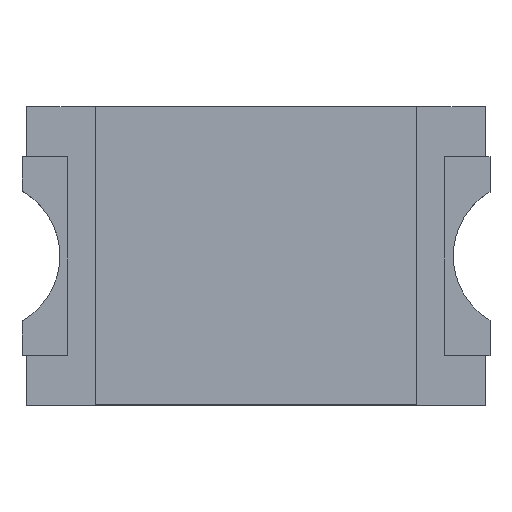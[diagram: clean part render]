
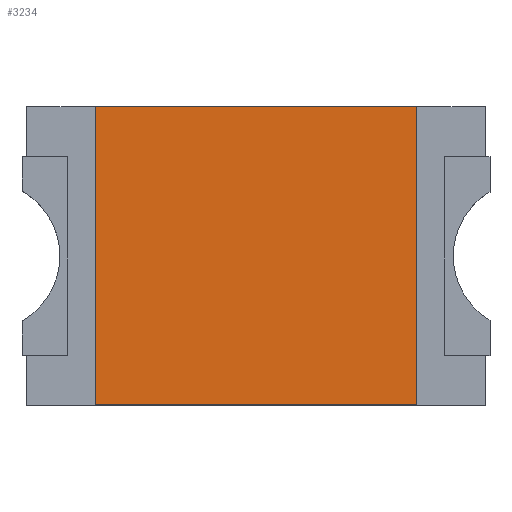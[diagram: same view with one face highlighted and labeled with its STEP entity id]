
A CAD part, top view. The second image highlights one B-rep face of the part: STEP entity #3234.
In plain terms, the highlighted planar face has unit normal (0, 0, 1).
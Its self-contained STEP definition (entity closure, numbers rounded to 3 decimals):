
#179 = PLANE('',#180);
#180 = AXIS2_PLACEMENT_3D('',#181,#182,#183);
#181 = CARTESIAN_POINT('',(-0.7,-0.65,0.4));
#182 = DIRECTION('',(1.,0.,0.));
#183 = DIRECTION('',(0.,0.,1.));
#725 = PLANE('',#726);
#726 = AXIS2_PLACEMENT_3D('',#727,#728,#729);
#727 = CARTESIAN_POINT('',(-0.7,-0.65,0.4));
#728 = DIRECTION('',(0.,1.,0.));
#729 = DIRECTION('',(0.,0.,1.));
#980 = PLANE('',#981);
#981 = AXIS2_PLACEMENT_3D('',#982,#983,#984);
#982 = CARTESIAN_POINT('',(-0.7,0.65,0.4));
#983 = DIRECTION('',(0.,1.,0.));
#984 = DIRECTION('',(0.,0.,1.));
#1040 = VERTEX_POINT('',#1041);
#1041 = CARTESIAN_POINT('',(-0.7,-0.65,0.8));
#1064 = VERTEX_POINT('',#1065);
#1065 = CARTESIAN_POINT('',(-0.7,0.65,0.8));
#1086 = EDGE_CURVE('',#1040,#1064,#1087,.T.);
#1087 = SURFACE_CURVE('',#1088,(#1092,#1099),.PCURVE_S1.);
#1088 = LINE('',#1089,#1090);
#1089 = CARTESIAN_POINT('',(-0.7,-0.65,0.8));
#1090 = VECTOR('',#1091,1.);
#1091 = DIRECTION('',(0.,1.,0.));
#1092 = PCURVE('',#179,#1093);
#1093 = DEFINITIONAL_REPRESENTATION('',(#1094),#1098);
#1094 = LINE('',#1095,#1096);
#1095 = CARTESIAN_POINT('',(0.4,0.));
#1096 = VECTOR('',#1097,1.);
#1097 = DIRECTION('',(0.,-1.));
#1098 = ( GEOMETRIC_REPRESENTATION_CONTEXT(2) 
PARAMETRIC_REPRESENTATION_CONTEXT() REPRESENTATION_CONTEXT('2D SPACE',''
  ) );
#1099 = PCURVE('',#1100,#1105);
#1100 = PLANE('',#1101);
#1101 = AXIS2_PLACEMENT_3D('',#1102,#1103,#1104);
#1102 = CARTESIAN_POINT('',(-0.7,-0.65,0.8));
#1103 = DIRECTION('',(0.,0.,1.));
#1104 = DIRECTION('',(1.,0.,0.));
#1105 = DEFINITIONAL_REPRESENTATION('',(#1106),#1110);
#1106 = LINE('',#1107,#1108);
#1107 = CARTESIAN_POINT('',(0.,0.));
#1108 = VECTOR('',#1109,1.);
#1109 = DIRECTION('',(0.,1.));
#1110 = ( GEOMETRIC_REPRESENTATION_CONTEXT(2) 
PARAMETRIC_REPRESENTATION_CONTEXT() REPRESENTATION_CONTEXT('2D SPACE',''
  ) );
#3018 = EDGE_CURVE('',#1040,#3019,#3021,.T.);
#3019 = VERTEX_POINT('',#3020);
#3020 = CARTESIAN_POINT('',(0.7,-0.65,0.8));
#3021 = SURFACE_CURVE('',#3022,(#3026,#3033),.PCURVE_S1.);
#3022 = LINE('',#3023,#3024);
#3023 = CARTESIAN_POINT('',(-0.7,-0.65,0.8));
#3024 = VECTOR('',#3025,1.);
#3025 = DIRECTION('',(1.,0.,0.));
#3026 = PCURVE('',#725,#3027);
#3027 = DEFINITIONAL_REPRESENTATION('',(#3028),#3032);
#3028 = LINE('',#3029,#3030);
#3029 = CARTESIAN_POINT('',(0.4,0.));
#3030 = VECTOR('',#3031,1.);
#3031 = DIRECTION('',(0.,1.));
#3032 = ( GEOMETRIC_REPRESENTATION_CONTEXT(2) 
PARAMETRIC_REPRESENTATION_CONTEXT() REPRESENTATION_CONTEXT('2D SPACE',''
  ) );
#3033 = PCURVE('',#1100,#3034);
#3034 = DEFINITIONAL_REPRESENTATION('',(#3035),#3039);
#3035 = LINE('',#3036,#3037);
#3036 = CARTESIAN_POINT('',(0.,0.));
#3037 = VECTOR('',#3038,1.);
#3038 = DIRECTION('',(1.,0.));
#3039 = ( GEOMETRIC_REPRESENTATION_CONTEXT(2) 
PARAMETRIC_REPRESENTATION_CONTEXT() REPRESENTATION_CONTEXT('2D SPACE',''
  ) );
#3055 = PLANE('',#3056);
#3056 = AXIS2_PLACEMENT_3D('',#3057,#3058,#3059);
#3057 = CARTESIAN_POINT('',(0.7,-0.65,0.4));
#3058 = DIRECTION('',(1.,0.,0.));
#3059 = DIRECTION('',(0.,0.,1.));
#3191 = EDGE_CURVE('',#1064,#3192,#3194,.T.);
#3192 = VERTEX_POINT('',#3193);
#3193 = CARTESIAN_POINT('',(0.7,0.65,0.8));
#3194 = SURFACE_CURVE('',#3195,(#3199,#3206),.PCURVE_S1.);
#3195 = LINE('',#3196,#3197);
#3196 = CARTESIAN_POINT('',(-0.7,0.65,0.8));
#3197 = VECTOR('',#3198,1.);
#3198 = DIRECTION('',(1.,0.,0.));
#3199 = PCURVE('',#980,#3200);
#3200 = DEFINITIONAL_REPRESENTATION('',(#3201),#3205);
#3201 = LINE('',#3202,#3203);
#3202 = CARTESIAN_POINT('',(0.4,0.));
#3203 = VECTOR('',#3204,1.);
#3204 = DIRECTION('',(0.,1.));
#3205 = ( GEOMETRIC_REPRESENTATION_CONTEXT(2) 
PARAMETRIC_REPRESENTATION_CONTEXT() REPRESENTATION_CONTEXT('2D SPACE',''
  ) );
#3206 = PCURVE('',#1100,#3207);
#3207 = DEFINITIONAL_REPRESENTATION('',(#3208),#3212);
#3208 = LINE('',#3209,#3210);
#3209 = CARTESIAN_POINT('',(0.,1.3));
#3210 = VECTOR('',#3211,1.);
#3211 = DIRECTION('',(1.,0.));
#3212 = ( GEOMETRIC_REPRESENTATION_CONTEXT(2) 
PARAMETRIC_REPRESENTATION_CONTEXT() REPRESENTATION_CONTEXT('2D SPACE',''
  ) );
#3234 = ADVANCED_FACE('',(#3235),#1100,.T.);
#3235 = FACE_BOUND('',#3236,.T.);
#3236 = EDGE_LOOP('',(#3237,#3238,#3239,#3260));
#3237 = ORIENTED_EDGE('',*,*,#1086,.F.);
#3238 = ORIENTED_EDGE('',*,*,#3018,.T.);
#3239 = ORIENTED_EDGE('',*,*,#3240,.T.);
#3240 = EDGE_CURVE('',#3019,#3192,#3241,.T.);
#3241 = SURFACE_CURVE('',#3242,(#3246,#3253),.PCURVE_S1.);
#3242 = LINE('',#3243,#3244);
#3243 = CARTESIAN_POINT('',(0.7,-0.65,0.8));
#3244 = VECTOR('',#3245,1.);
#3245 = DIRECTION('',(0.,1.,0.));
#3246 = PCURVE('',#1100,#3247);
#3247 = DEFINITIONAL_REPRESENTATION('',(#3248),#3252);
#3248 = LINE('',#3249,#3250);
#3249 = CARTESIAN_POINT('',(1.4,0.));
#3250 = VECTOR('',#3251,1.);
#3251 = DIRECTION('',(0.,1.));
#3252 = ( GEOMETRIC_REPRESENTATION_CONTEXT(2) 
PARAMETRIC_REPRESENTATION_CONTEXT() REPRESENTATION_CONTEXT('2D SPACE',''
  ) );
#3253 = PCURVE('',#3055,#3254);
#3254 = DEFINITIONAL_REPRESENTATION('',(#3255),#3259);
#3255 = LINE('',#3256,#3257);
#3256 = CARTESIAN_POINT('',(0.4,0.));
#3257 = VECTOR('',#3258,1.);
#3258 = DIRECTION('',(0.,-1.));
#3259 = ( GEOMETRIC_REPRESENTATION_CONTEXT(2) 
PARAMETRIC_REPRESENTATION_CONTEXT() REPRESENTATION_CONTEXT('2D SPACE',''
  ) );
#3260 = ORIENTED_EDGE('',*,*,#3191,.F.);
